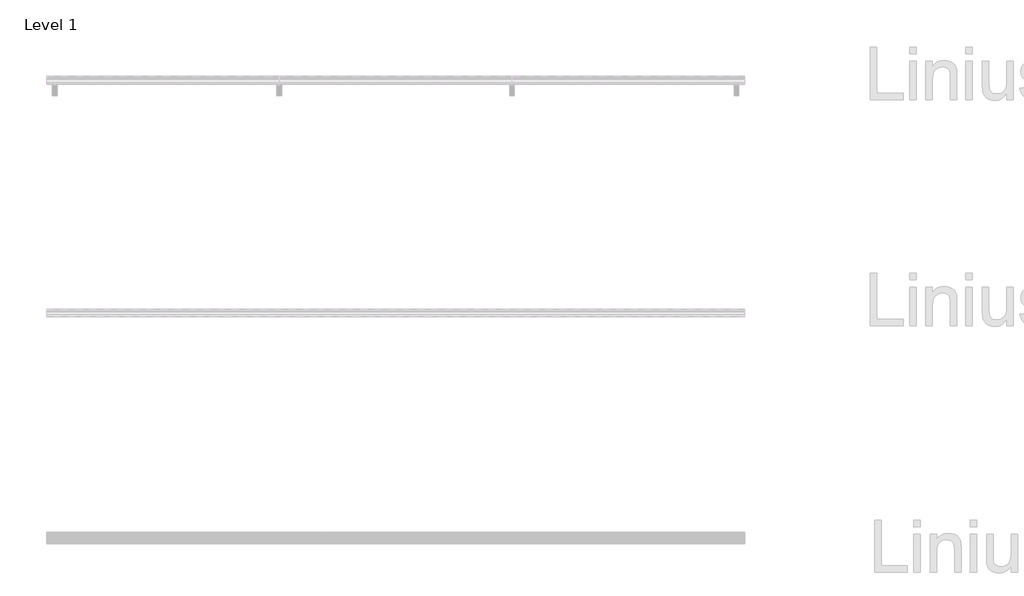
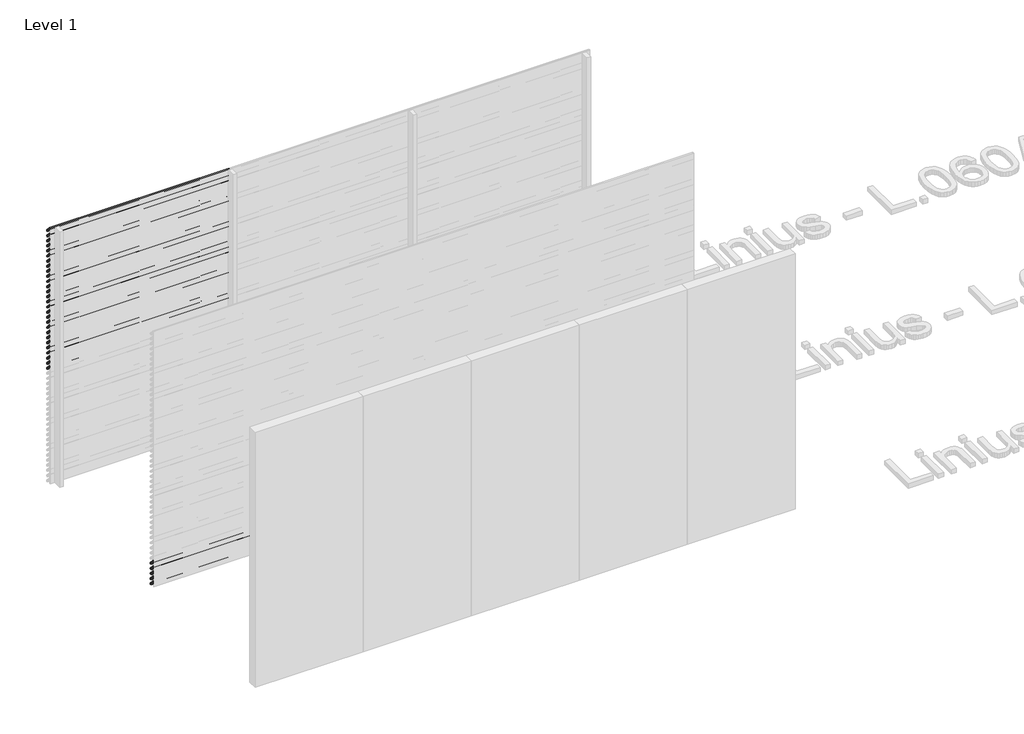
# One storey, part 55 of 153: 33 proxies.
"""IFC4 building model written with IfcOpenShell, lengths in millimetres."""

from ifc_helpers import new_model, si_unit, point, frame, frame_2d, origin, place, context, project, spatial, polyline, circle_curve, trimmed, segment, composite_curve, outline, extrude, element, save

model = new_model("IFC4")

# Units and contexts
model_context = context("Model", 3, world=origin())
ifc_project = project(units=[si_unit("LENGTHUNIT", "METRE", prefix="MILLI")], contexts=[model_context])

# Site, building, storey
site = spatial("IfcSite", under=ifc_project)
building = spatial("IfcBuilding", under=site)
storey = spatial("IfcBuildingStorey", under=building, Name="Level 1", Elevation=0.0)

# Proxies
placement = place(None, origin())
element("IfcBuildingElementProxy", 1, Name="Wall Sweeps", at=placement, inside=storey, context=model_context, shape_type="SweptSolid", body=[
    extrude(outline(composite_curve([segment(polyline([(28985.0540136, 3000.0), (28999.874191, 2998.7034025), (29049.0540136, 2945.0102749), (29049.0540136, 2933.6108187)]), True, "CONTINUOUS"), segment(trimmed(circle_curve(frame_2d((29045.7883652, 2933.897153)), 3.2781774), [point((29049.0540136, 2933.6108187))], [point((29046.4639442, 2930.6893438))], False, "CARTESIAN"), True, "CONTINUOUS"), segment(polyline([(29046.4639442, 2930.6893438), (29034.1895723, 2931.6282758), (28985.0540136, 2985.2730773), (28985.0540136, 3000.0)]), True, "CONTINUOUS")], self_intersect=False), holes=[composite_curve([segment(polyline([(28999.1621773, 2997.2599659), (28986.5540136, 2998.3630372), (28986.5540136, 2985.856213), (29034.8952036, 2933.0786805), (29046.3312542, 2932.2038762)]), True, "CONTINUOUS"), segment(trimmed(circle_curve(frame_2d((29045.7883652, 2933.897153)), 1.7781774), [point((29046.3312542, 2932.2038762))], [point((29047.5540136, 2933.6864389))], True, "CARTESIAN"), True, "CONTINUOUS"), segment(polyline([(29047.5540136, 2933.6864389), (29047.5540136, 2944.4271392), (28999.1621773, 2997.2599659)]), True, "CONTINUOUS")], self_intersect=False)]), frame((44966.6208097, 0.0, 0.0), z_axis=(1.0, 0.0, 0.0), x_axis=(0.0, 1.0, 0.0)), (0.0, 0.0, 1.0), 2000.0000001),
])
element("IfcBuildingElementProxy", 2, Name="Wall Sweeps", at=placement, inside=storey, context=model_context, shape_type="SweptSolid", body=[
    extrude(outline(composite_curve([segment(polyline([(28985.0540136, 2940.0), (28999.874191, 2938.7034025), (29049.0540136, 2885.0102749), (29049.0540136, 2873.6108187)]), True, "CONTINUOUS"), segment(trimmed(circle_curve(frame_2d((29045.7883652, 2873.897153)), 3.2781774), [point((29049.0540136, 2873.6108187))], [point((29046.4639442, 2870.6893438))], False, "CARTESIAN"), True, "CONTINUOUS"), segment(polyline([(29046.4639442, 2870.6893438), (29034.1895723, 2871.6282758), (28985.0540136, 2925.2730773), (28985.0540136, 2940.0)]), True, "CONTINUOUS")], self_intersect=False), holes=[composite_curve([segment(polyline([(28999.1621773, 2937.2599659), (28986.5540136, 2938.3630372), (28986.5540136, 2925.856213), (29034.8952036, 2873.0786805), (29046.3312542, 2872.2038762)]), True, "CONTINUOUS"), segment(trimmed(circle_curve(frame_2d((29045.7883652, 2873.897153)), 1.7781774), [point((29046.3312542, 2872.2038762))], [point((29047.5540136, 2873.6864389))], True, "CARTESIAN"), True, "CONTINUOUS"), segment(polyline([(29047.5540136, 2873.6864389), (29047.5540136, 2884.4271392), (28999.1621773, 2937.2599659)]), True, "CONTINUOUS")], self_intersect=False)]), frame((44966.6208097, 0.0, 0.0), z_axis=(1.0, 0.0, 0.0), x_axis=(0.0, 1.0, 0.0)), (0.0, 0.0, 1.0), 2000.0000001),
])
element("IfcBuildingElementProxy", 3, Name="Wall Sweeps", at=placement, inside=storey, context=model_context, shape_type="SweptSolid", body=[
    extrude(outline(composite_curve([segment(polyline([(28985.0540136, 2880.0), (28999.874191, 2878.7034025), (29049.0540136, 2825.0102749), (29049.0540136, 2813.6108187)]), True, "CONTINUOUS"), segment(trimmed(circle_curve(frame_2d((29045.7883652, 2813.897153)), 3.2781774), [point((29049.0540136, 2813.6108187))], [point((29046.4639442, 2810.6893438))], False, "CARTESIAN"), True, "CONTINUOUS"), segment(polyline([(29046.4639442, 2810.6893438), (29034.1895723, 2811.6282758), (28985.0540136, 2865.2730773), (28985.0540136, 2880.0)]), True, "CONTINUOUS")], self_intersect=False), holes=[composite_curve([segment(polyline([(28999.1621773, 2877.2599659), (28986.5540136, 2878.3630372), (28986.5540136, 2865.856213), (29034.8952036, 2813.0786805), (29046.3312542, 2812.2038762)]), True, "CONTINUOUS"), segment(trimmed(circle_curve(frame_2d((29045.7883652, 2813.897153)), 1.7781774), [point((29046.3312542, 2812.2038762))], [point((29047.5540136, 2813.6864389))], True, "CARTESIAN"), True, "CONTINUOUS"), segment(polyline([(29047.5540136, 2813.6864389), (29047.5540136, 2824.4271392), (28999.1621773, 2877.2599659)]), True, "CONTINUOUS")], self_intersect=False)]), frame((44966.6208097, 0.0, 0.0), z_axis=(1.0, 0.0, 0.0), x_axis=(0.0, 1.0, 0.0)), (0.0, 0.0, 1.0), 2000.0000001),
])
element("IfcBuildingElementProxy", 4, Name="Wall Sweeps", at=placement, inside=storey, context=model_context, shape_type="SweptSolid", body=[
    extrude(outline(composite_curve([segment(polyline([(28985.0540136, 2820.0), (28999.874191, 2818.7034025), (29049.0540136, 2765.0102749), (29049.0540136, 2753.6108187)]), True, "CONTINUOUS"), segment(trimmed(circle_curve(frame_2d((29045.7883652, 2753.897153)), 3.2781774), [point((29049.0540136, 2753.6108187))], [point((29046.4639442, 2750.6893438))], False, "CARTESIAN"), True, "CONTINUOUS"), segment(polyline([(29046.4639442, 2750.6893438), (29034.1895723, 2751.6282758), (28985.0540136, 2805.2730773), (28985.0540136, 2820.0)]), True, "CONTINUOUS")], self_intersect=False), holes=[composite_curve([segment(polyline([(28999.1621773, 2817.2599659), (28986.5540136, 2818.3630372), (28986.5540136, 2805.856213), (29034.8952036, 2753.0786805), (29046.3312542, 2752.2038762)]), True, "CONTINUOUS"), segment(trimmed(circle_curve(frame_2d((29045.7883652, 2753.897153)), 1.7781774), [point((29046.3312542, 2752.2038762))], [point((29047.5540136, 2753.6864389))], True, "CARTESIAN"), True, "CONTINUOUS"), segment(polyline([(29047.5540136, 2753.6864389), (29047.5540136, 2764.4271392), (28999.1621773, 2817.2599659)]), True, "CONTINUOUS")], self_intersect=False)]), frame((44966.6208097, 0.0, 0.0), z_axis=(1.0, 0.0, 0.0), x_axis=(0.0, 1.0, 0.0)), (0.0, 0.0, 1.0), 2000.0000001),
])
element("IfcBuildingElementProxy", 5, Name="Wall Sweeps", at=placement, inside=storey, context=model_context, shape_type="SweptSolid", body=[
    extrude(outline(composite_curve([segment(polyline([(28985.0540136, 2760.0), (28999.874191, 2758.7034025), (29049.0540136, 2705.0102749), (29049.0540136, 2693.6108187)]), True, "CONTINUOUS"), segment(trimmed(circle_curve(frame_2d((29045.7883652, 2693.897153)), 3.2781774), [point((29049.0540136, 2693.6108187))], [point((29046.4639442, 2690.6893438))], False, "CARTESIAN"), True, "CONTINUOUS"), segment(polyline([(29046.4639442, 2690.6893438), (29034.1895723, 2691.6282758), (28985.0540136, 2745.2730773), (28985.0540136, 2760.0)]), True, "CONTINUOUS")], self_intersect=False), holes=[composite_curve([segment(polyline([(28999.1621773, 2757.2599659), (28986.5540136, 2758.3630372), (28986.5540136, 2745.856213), (29034.8952036, 2693.0786805), (29046.3312542, 2692.2038762)]), True, "CONTINUOUS"), segment(trimmed(circle_curve(frame_2d((29045.7883652, 2693.897153)), 1.7781774), [point((29046.3312542, 2692.2038762))], [point((29047.5540136, 2693.6864389))], True, "CARTESIAN"), True, "CONTINUOUS"), segment(polyline([(29047.5540136, 2693.6864389), (29047.5540136, 2704.4271392), (28999.1621773, 2757.2599659)]), True, "CONTINUOUS")], self_intersect=False)]), frame((44966.6208097, 0.0, 0.0), z_axis=(1.0, 0.0, 0.0), x_axis=(0.0, 1.0, 0.0)), (0.0, 0.0, 1.0), 2000.0000001),
])
element("IfcBuildingElementProxy", 6, Name="Wall Sweeps", at=placement, inside=storey, context=model_context, shape_type="SweptSolid", body=[
    extrude(outline(composite_curve([segment(polyline([(28985.0540136, 2700.0), (28999.874191, 2698.7034025), (29049.0540136, 2645.0102749), (29049.0540136, 2633.6108187)]), True, "CONTINUOUS"), segment(trimmed(circle_curve(frame_2d((29045.7883652, 2633.897153)), 3.2781774), [point((29049.0540136, 2633.6108187))], [point((29046.4639442, 2630.6893438))], False, "CARTESIAN"), True, "CONTINUOUS"), segment(polyline([(29046.4639442, 2630.6893438), (29034.1895723, 2631.6282758), (28985.0540136, 2685.2730773), (28985.0540136, 2700.0)]), True, "CONTINUOUS")], self_intersect=False), holes=[composite_curve([segment(polyline([(28999.1621773, 2697.2599659), (28986.5540136, 2698.3630372), (28986.5540136, 2685.856213), (29034.8952036, 2633.0786805), (29046.3312542, 2632.2038762)]), True, "CONTINUOUS"), segment(trimmed(circle_curve(frame_2d((29045.7883652, 2633.897153)), 1.7781774), [point((29046.3312542, 2632.2038762))], [point((29047.5540136, 2633.6864389))], True, "CARTESIAN"), True, "CONTINUOUS"), segment(polyline([(29047.5540136, 2633.6864389), (29047.5540136, 2644.4271392), (28999.1621773, 2697.2599659)]), True, "CONTINUOUS")], self_intersect=False)]), frame((44966.6208097, 0.0, 0.0), z_axis=(1.0, 0.0, 0.0), x_axis=(0.0, 1.0, 0.0)), (0.0, 0.0, 1.0), 2000.0000001),
])
element("IfcBuildingElementProxy", 7, Name="Wall Sweeps", at=placement, inside=storey, context=model_context, shape_type="SweptSolid", body=[
    extrude(outline(composite_curve([segment(polyline([(28985.0540136, 2640.0), (28999.874191, 2638.7034025), (29049.0540136, 2585.0102749), (29049.0540136, 2573.6108187)]), True, "CONTINUOUS"), segment(trimmed(circle_curve(frame_2d((29045.7883652, 2573.897153)), 3.2781774), [point((29049.0540136, 2573.6108187))], [point((29046.4639442, 2570.6893438))], False, "CARTESIAN"), True, "CONTINUOUS"), segment(polyline([(29046.4639442, 2570.6893438), (29034.1895723, 2571.6282758), (28985.0540136, 2625.2730773), (28985.0540136, 2640.0)]), True, "CONTINUOUS")], self_intersect=False), holes=[composite_curve([segment(polyline([(28999.1621773, 2637.2599659), (28986.5540136, 2638.3630372), (28986.5540136, 2625.856213), (29034.8952036, 2573.0786805), (29046.3312542, 2572.2038762)]), True, "CONTINUOUS"), segment(trimmed(circle_curve(frame_2d((29045.7883652, 2573.897153)), 1.7781774), [point((29046.3312542, 2572.2038762))], [point((29047.5540136, 2573.6864389))], True, "CARTESIAN"), True, "CONTINUOUS"), segment(polyline([(29047.5540136, 2573.6864389), (29047.5540136, 2584.4271392), (28999.1621773, 2637.2599659)]), True, "CONTINUOUS")], self_intersect=False)]), frame((44966.6208097, 0.0, 0.0), z_axis=(1.0, 0.0, 0.0), x_axis=(0.0, 1.0, 0.0)), (0.0, 0.0, 1.0), 2000.0000001),
])
element("IfcBuildingElementProxy", 8, Name="Wall Sweeps", at=placement, inside=storey, context=model_context, shape_type="SweptSolid", body=[
    extrude(outline(composite_curve([segment(polyline([(28985.0540136, 2580.0), (28999.874191, 2578.7034025), (29049.0540136, 2525.0102749), (29049.0540136, 2513.6108187)]), True, "CONTINUOUS"), segment(trimmed(circle_curve(frame_2d((29045.7883652, 2513.897153)), 3.2781774), [point((29049.0540136, 2513.6108187))], [point((29046.4639442, 2510.6893438))], False, "CARTESIAN"), True, "CONTINUOUS"), segment(polyline([(29046.4639442, 2510.6893438), (29034.1895723, 2511.6282758), (28985.0540136, 2565.2730773), (28985.0540136, 2580.0)]), True, "CONTINUOUS")], self_intersect=False), holes=[composite_curve([segment(polyline([(28999.1621773, 2577.2599659), (28986.5540136, 2578.3630372), (28986.5540136, 2565.856213), (29034.8952036, 2513.0786805), (29046.3312542, 2512.2038762)]), True, "CONTINUOUS"), segment(trimmed(circle_curve(frame_2d((29045.7883652, 2513.897153)), 1.7781774), [point((29046.3312542, 2512.2038762))], [point((29047.5540136, 2513.6864389))], True, "CARTESIAN"), True, "CONTINUOUS"), segment(polyline([(29047.5540136, 2513.6864389), (29047.5540136, 2524.4271392), (28999.1621773, 2577.2599659)]), True, "CONTINUOUS")], self_intersect=False)]), frame((44966.6208097, 0.0, 0.0), z_axis=(1.0, 0.0, 0.0), x_axis=(0.0, 1.0, 0.0)), (0.0, 0.0, 1.0), 2000.0000001),
])
element("IfcBuildingElementProxy", 9, Name="Wall Sweeps", at=placement, inside=storey, context=model_context, shape_type="SweptSolid", body=[
    extrude(outline(composite_curve([segment(polyline([(28985.0540136, 2520.0), (28999.874191, 2518.7034025), (29049.0540136, 2465.0102749), (29049.0540136, 2453.6108187)]), True, "CONTINUOUS"), segment(trimmed(circle_curve(frame_2d((29045.7883652, 2453.897153)), 3.2781774), [point((29049.0540136, 2453.6108187))], [point((29046.4639442, 2450.6893438))], False, "CARTESIAN"), True, "CONTINUOUS"), segment(polyline([(29046.4639442, 2450.6893438), (29034.1895723, 2451.6282758), (28985.0540136, 2505.2730773), (28985.0540136, 2520.0)]), True, "CONTINUOUS")], self_intersect=False), holes=[composite_curve([segment(polyline([(28999.1621773, 2517.2599659), (28986.5540136, 2518.3630372), (28986.5540136, 2505.856213), (29034.8952036, 2453.0786805), (29046.3312542, 2452.2038762)]), True, "CONTINUOUS"), segment(trimmed(circle_curve(frame_2d((29045.7883652, 2453.897153)), 1.7781774), [point((29046.3312542, 2452.2038762))], [point((29047.5540136, 2453.6864389))], True, "CARTESIAN"), True, "CONTINUOUS"), segment(polyline([(29047.5540136, 2453.6864389), (29047.5540136, 2464.4271392), (28999.1621773, 2517.2599659)]), True, "CONTINUOUS")], self_intersect=False)]), frame((44966.6208097, 0.0, 0.0), z_axis=(1.0, 0.0, 0.0), x_axis=(0.0, 1.0, 0.0)), (0.0, 0.0, 1.0), 2000.0000001),
])
element("IfcBuildingElementProxy", 10, Name="Wall Sweeps", at=placement, inside=storey, context=model_context, shape_type="SweptSolid", body=[
    extrude(outline(composite_curve([segment(polyline([(28985.0540136, 2460.0), (28999.874191, 2458.7034025), (29049.0540136, 2405.0102749), (29049.0540136, 2393.6108187)]), True, "CONTINUOUS"), segment(trimmed(circle_curve(frame_2d((29045.7883652, 2393.897153)), 3.2781774), [point((29049.0540136, 2393.6108187))], [point((29046.4639442, 2390.6893438))], False, "CARTESIAN"), True, "CONTINUOUS"), segment(polyline([(29046.4639442, 2390.6893438), (29034.1895723, 2391.6282758), (28985.0540136, 2445.2730773), (28985.0540136, 2460.0)]), True, "CONTINUOUS")], self_intersect=False), holes=[composite_curve([segment(polyline([(28999.1621773, 2457.2599659), (28986.5540136, 2458.3630372), (28986.5540136, 2445.856213), (29034.8952036, 2393.0786805), (29046.3312542, 2392.2038762)]), True, "CONTINUOUS"), segment(trimmed(circle_curve(frame_2d((29045.7883652, 2393.897153)), 1.7781774), [point((29046.3312542, 2392.2038762))], [point((29047.5540136, 2393.6864389))], True, "CARTESIAN"), True, "CONTINUOUS"), segment(polyline([(29047.5540136, 2393.6864389), (29047.5540136, 2404.4271392), (28999.1621773, 2457.2599659)]), True, "CONTINUOUS")], self_intersect=False)]), frame((44966.6208097, 0.0, 0.0), z_axis=(1.0, 0.0, 0.0), x_axis=(0.0, 1.0, 0.0)), (0.0, 0.0, 1.0), 2000.0000001),
])
element("IfcBuildingElementProxy", 11, Name="Wall Sweeps", at=placement, inside=storey, context=model_context, shape_type="SweptSolid", body=[
    extrude(outline(composite_curve([segment(polyline([(28985.0540136, 2400.0), (28999.874191, 2398.7034025), (29049.0540136, 2345.0102749), (29049.0540136, 2333.6108187)]), True, "CONTINUOUS"), segment(trimmed(circle_curve(frame_2d((29045.7883652, 2333.897153)), 3.2781774), [point((29049.0540136, 2333.6108187))], [point((29046.4639442, 2330.6893438))], False, "CARTESIAN"), True, "CONTINUOUS"), segment(polyline([(29046.4639442, 2330.6893438), (29034.1895723, 2331.6282758), (28985.0540136, 2385.2730773), (28985.0540136, 2400.0)]), True, "CONTINUOUS")], self_intersect=False), holes=[composite_curve([segment(polyline([(28999.1621773, 2397.2599659), (28986.5540136, 2398.3630372), (28986.5540136, 2385.856213), (29034.8952036, 2333.0786805), (29046.3312542, 2332.2038762)]), True, "CONTINUOUS"), segment(trimmed(circle_curve(frame_2d((29045.7883652, 2333.897153)), 1.7781774), [point((29046.3312542, 2332.2038762))], [point((29047.5540136, 2333.6864389))], True, "CARTESIAN"), True, "CONTINUOUS"), segment(polyline([(29047.5540136, 2333.6864389), (29047.5540136, 2344.4271392), (28999.1621773, 2397.2599659)]), True, "CONTINUOUS")], self_intersect=False)]), frame((44966.6208097, 0.0, 0.0), z_axis=(1.0, 0.0, 0.0), x_axis=(0.0, 1.0, 0.0)), (0.0, 0.0, 1.0), 2000.0000001),
])
element("IfcBuildingElementProxy", 12, Name="Wall Sweeps", at=placement, inside=storey, context=model_context, shape_type="SweptSolid", body=[
    extrude(outline(composite_curve([segment(polyline([(28985.0540136, 2340.0), (28999.874191, 2338.7034025), (29049.0540136, 2285.0102749), (29049.0540136, 2273.6108187)]), True, "CONTINUOUS"), segment(trimmed(circle_curve(frame_2d((29045.7883652, 2273.897153)), 3.2781774), [point((29049.0540136, 2273.6108187))], [point((29046.4639442, 2270.6893438))], False, "CARTESIAN"), True, "CONTINUOUS"), segment(polyline([(29046.4639442, 2270.6893438), (29034.1895723, 2271.6282758), (28985.0540136, 2325.2730773), (28985.0540136, 2340.0)]), True, "CONTINUOUS")], self_intersect=False), holes=[composite_curve([segment(polyline([(28999.1621773, 2337.2599659), (28986.5540136, 2338.3630372), (28986.5540136, 2325.856213), (29034.8952036, 2273.0786805), (29046.3312542, 2272.2038762)]), True, "CONTINUOUS"), segment(trimmed(circle_curve(frame_2d((29045.7883652, 2273.897153)), 1.7781774), [point((29046.3312542, 2272.2038762))], [point((29047.5540136, 2273.6864389))], True, "CARTESIAN"), True, "CONTINUOUS"), segment(polyline([(29047.5540136, 2273.6864389), (29047.5540136, 2284.4271392), (28999.1621773, 2337.2599659)]), True, "CONTINUOUS")], self_intersect=False)]), frame((44966.6208097, 0.0, 0.0), z_axis=(1.0, 0.0, 0.0), x_axis=(0.0, 1.0, 0.0)), (0.0, 0.0, 1.0), 2000.0000001),
])
element("IfcBuildingElementProxy", 13, Name="Wall Sweeps", at=placement, inside=storey, context=model_context, shape_type="SweptSolid", body=[
    extrude(outline(composite_curve([segment(polyline([(28985.0540136, 2280.0), (28999.874191, 2278.7034025), (29049.0540136, 2225.0102749), (29049.0540136, 2213.6108187)]), True, "CONTINUOUS"), segment(trimmed(circle_curve(frame_2d((29045.7883652, 2213.897153)), 3.2781774), [point((29049.0540136, 2213.6108187))], [point((29046.4639442, 2210.6893438))], False, "CARTESIAN"), True, "CONTINUOUS"), segment(polyline([(29046.4639442, 2210.6893438), (29034.1895723, 2211.6282758), (28985.0540136, 2265.2730773), (28985.0540136, 2280.0)]), True, "CONTINUOUS")], self_intersect=False), holes=[composite_curve([segment(polyline([(28999.1621773, 2277.2599659), (28986.5540136, 2278.3630372), (28986.5540136, 2265.856213), (29034.8952036, 2213.0786805), (29046.3312542, 2212.2038762)]), True, "CONTINUOUS"), segment(trimmed(circle_curve(frame_2d((29045.7883652, 2213.897153)), 1.7781774), [point((29046.3312542, 2212.2038762))], [point((29047.5540136, 2213.6864389))], True, "CARTESIAN"), True, "CONTINUOUS"), segment(polyline([(29047.5540136, 2213.6864389), (29047.5540136, 2224.4271392), (28999.1621773, 2277.2599659)]), True, "CONTINUOUS")], self_intersect=False)]), frame((44966.6208097, 0.0, 0.0), z_axis=(1.0, 0.0, 0.0), x_axis=(0.0, 1.0, 0.0)), (0.0, 0.0, 1.0), 2000.0000001),
])
element("IfcBuildingElementProxy", 14, Name="Wall Sweeps", at=placement, inside=storey, context=model_context, shape_type="SweptSolid", body=[
    extrude(outline(composite_curve([segment(polyline([(28985.0540136, 2220.0), (28999.874191, 2218.7034025), (29049.0540136, 2165.0102749), (29049.0540136, 2153.6108187)]), True, "CONTINUOUS"), segment(trimmed(circle_curve(frame_2d((29045.7883652, 2153.897153)), 3.2781774), [point((29049.0540136, 2153.6108187))], [point((29046.4639442, 2150.6893438))], False, "CARTESIAN"), True, "CONTINUOUS"), segment(polyline([(29046.4639442, 2150.6893438), (29034.1895723, 2151.6282758), (28985.0540136, 2205.2730773), (28985.0540136, 2220.0)]), True, "CONTINUOUS")], self_intersect=False), holes=[composite_curve([segment(polyline([(28999.1621773, 2217.2599659), (28986.5540136, 2218.3630372), (28986.5540136, 2205.856213), (29034.8952036, 2153.0786805), (29046.3312542, 2152.2038762)]), True, "CONTINUOUS"), segment(trimmed(circle_curve(frame_2d((29045.7883652, 2153.897153)), 1.7781774), [point((29046.3312542, 2152.2038762))], [point((29047.5540136, 2153.6864389))], True, "CARTESIAN"), True, "CONTINUOUS"), segment(polyline([(29047.5540136, 2153.6864389), (29047.5540136, 2164.4271392), (28999.1621773, 2217.2599659)]), True, "CONTINUOUS")], self_intersect=False)]), frame((44966.6208097, 0.0, 0.0), z_axis=(1.0, 0.0, 0.0), x_axis=(0.0, 1.0, 0.0)), (0.0, 0.0, 1.0), 2000.0000001),
])
element("IfcBuildingElementProxy", 15, Name="Wall Sweeps", at=placement, inside=storey, context=model_context, shape_type="SweptSolid", body=[
    extrude(outline(composite_curve([segment(polyline([(28985.0540136, 2160.0), (28999.874191, 2158.7034025), (29049.0540136, 2105.0102749), (29049.0540136, 2093.6108187)]), True, "CONTINUOUS"), segment(trimmed(circle_curve(frame_2d((29045.7883652, 2093.897153)), 3.2781774), [point((29049.0540136, 2093.6108187))], [point((29046.4639442, 2090.6893438))], False, "CARTESIAN"), True, "CONTINUOUS"), segment(polyline([(29046.4639442, 2090.6893438), (29034.1895723, 2091.6282758), (28985.0540136, 2145.2730773), (28985.0540136, 2160.0)]), True, "CONTINUOUS")], self_intersect=False), holes=[composite_curve([segment(polyline([(28999.1621773, 2157.2599659), (28986.5540136, 2158.3630372), (28986.5540136, 2145.856213), (29034.8952036, 2093.0786805), (29046.3312542, 2092.2038762)]), True, "CONTINUOUS"), segment(trimmed(circle_curve(frame_2d((29045.7883652, 2093.897153)), 1.7781774), [point((29046.3312542, 2092.2038762))], [point((29047.5540136, 2093.6864389))], True, "CARTESIAN"), True, "CONTINUOUS"), segment(polyline([(29047.5540136, 2093.6864389), (29047.5540136, 2104.4271392), (28999.1621773, 2157.2599659)]), True, "CONTINUOUS")], self_intersect=False)]), frame((44966.6208097, 0.0, 0.0), z_axis=(1.0, 0.0, 0.0), x_axis=(0.0, 1.0, 0.0)), (0.0, 0.0, 1.0), 2000.0000001),
])
element("IfcBuildingElementProxy", 16, Name="Wall Sweeps", at=placement, inside=storey, context=model_context, shape_type="SweptSolid", body=[
    extrude(outline(composite_curve([segment(polyline([(28985.0540136, 2100.0), (28999.874191, 2098.7034025), (29049.0540136, 2045.0102749), (29049.0540136, 2033.6108187)]), True, "CONTINUOUS"), segment(trimmed(circle_curve(frame_2d((29045.7883652, 2033.897153)), 3.2781774), [point((29049.0540136, 2033.6108187))], [point((29046.4639442, 2030.6893438))], False, "CARTESIAN"), True, "CONTINUOUS"), segment(polyline([(29046.4639442, 2030.6893438), (29034.1895723, 2031.6282758), (28985.0540136, 2085.2730773), (28985.0540136, 2100.0)]), True, "CONTINUOUS")], self_intersect=False), holes=[composite_curve([segment(polyline([(28999.1621773, 2097.2599659), (28986.5540136, 2098.3630372), (28986.5540136, 2085.856213), (29034.8952036, 2033.0786805), (29046.3312542, 2032.2038762)]), True, "CONTINUOUS"), segment(trimmed(circle_curve(frame_2d((29045.7883652, 2033.897153)), 1.7781774), [point((29046.3312542, 2032.2038762))], [point((29047.5540136, 2033.6864389))], True, "CARTESIAN"), True, "CONTINUOUS"), segment(polyline([(29047.5540136, 2033.6864389), (29047.5540136, 2044.4271392), (28999.1621773, 2097.2599659)]), True, "CONTINUOUS")], self_intersect=False)]), frame((44966.6208097, 0.0, 0.0), z_axis=(1.0, 0.0, 0.0), x_axis=(0.0, 1.0, 0.0)), (0.0, 0.0, 1.0), 2000.0000001),
])
element("IfcBuildingElementProxy", 17, Name="Wall Sweeps", at=placement, inside=storey, context=model_context, shape_type="SweptSolid", body=[
    extrude(outline(composite_curve([segment(polyline([(28985.0540136, 2040.0), (28999.874191, 2038.7034025), (29049.0540136, 1985.0102749), (29049.0540136, 1973.6108187)]), True, "CONTINUOUS"), segment(trimmed(circle_curve(frame_2d((29045.7883652, 1973.897153)), 3.2781774), [point((29049.0540136, 1973.6108187))], [point((29046.4639442, 1970.6893438))], False, "CARTESIAN"), True, "CONTINUOUS"), segment(polyline([(29046.4639442, 1970.6893438), (29034.1895723, 1971.6282758), (28985.0540136, 2025.2730773), (28985.0540136, 2040.0)]), True, "CONTINUOUS")], self_intersect=False), holes=[composite_curve([segment(polyline([(28999.1621773, 2037.2599659), (28986.5540136, 2038.3630372), (28986.5540136, 2025.856213), (29034.8952036, 1973.0786805), (29046.3312542, 1972.2038762)]), True, "CONTINUOUS"), segment(trimmed(circle_curve(frame_2d((29045.7883652, 1973.897153)), 1.7781774), [point((29046.3312542, 1972.2038762))], [point((29047.5540136, 1973.6864389))], True, "CARTESIAN"), True, "CONTINUOUS"), segment(polyline([(29047.5540136, 1973.6864389), (29047.5540136, 1984.4271392), (28999.1621773, 2037.2599659)]), True, "CONTINUOUS")], self_intersect=False)]), frame((44966.6208097, 0.0, 0.0), z_axis=(1.0, 0.0, 0.0), x_axis=(0.0, 1.0, 0.0)), (0.0, 0.0, 1.0), 2000.0000001),
])
element("IfcBuildingElementProxy", 18, Name="Wall Sweeps", at=placement, inside=storey, context=model_context, shape_type="SweptSolid", body=[
    extrude(outline(composite_curve([segment(polyline([(28985.0540136, 1980.0), (28999.874191, 1978.7034025), (29049.0540136, 1925.0102749), (29049.0540136, 1913.6108187)]), True, "CONTINUOUS"), segment(trimmed(circle_curve(frame_2d((29045.7883652, 1913.897153)), 3.2781774), [point((29049.0540136, 1913.6108187))], [point((29046.4639442, 1910.6893438))], False, "CARTESIAN"), True, "CONTINUOUS"), segment(polyline([(29046.4639442, 1910.6893438), (29034.1895723, 1911.6282758), (28985.0540136, 1965.2730773), (28985.0540136, 1980.0)]), True, "CONTINUOUS")], self_intersect=False), holes=[composite_curve([segment(polyline([(28999.1621773, 1977.2599659), (28986.5540136, 1978.3630372), (28986.5540136, 1965.856213), (29034.8952036, 1913.0786805), (29046.3312542, 1912.2038762)]), True, "CONTINUOUS"), segment(trimmed(circle_curve(frame_2d((29045.7883652, 1913.897153)), 1.7781774), [point((29046.3312542, 1912.2038762))], [point((29047.5540136, 1913.6864389))], True, "CARTESIAN"), True, "CONTINUOUS"), segment(polyline([(29047.5540136, 1913.6864389), (29047.5540136, 1924.4271392), (28999.1621773, 1977.2599659)]), True, "CONTINUOUS")], self_intersect=False)]), frame((44966.6208097, 0.0, 0.0), z_axis=(1.0, 0.0, 0.0), x_axis=(0.0, 1.0, 0.0)), (0.0, 0.0, 1.0), 2000.0000001),
])
element("IfcBuildingElementProxy", 19, Name="Wall Sweeps", at=placement, inside=storey, context=model_context, shape_type="SweptSolid", body=[
    extrude(outline(composite_curve([segment(polyline([(28985.0540136, 1920.0), (28999.874191, 1918.7034025), (29049.0540136, 1865.0102749), (29049.0540136, 1853.6108187)]), True, "CONTINUOUS"), segment(trimmed(circle_curve(frame_2d((29045.7883652, 1853.897153)), 3.2781774), [point((29049.0540136, 1853.6108187))], [point((29046.4639442, 1850.6893438))], False, "CARTESIAN"), True, "CONTINUOUS"), segment(polyline([(29046.4639442, 1850.6893438), (29034.1895723, 1851.6282758), (28985.0540136, 1905.2730773), (28985.0540136, 1920.0)]), True, "CONTINUOUS")], self_intersect=False), holes=[composite_curve([segment(polyline([(28999.1621773, 1917.2599659), (28986.5540136, 1918.3630372), (28986.5540136, 1905.856213), (29034.8952036, 1853.0786805), (29046.3312542, 1852.2038762)]), True, "CONTINUOUS"), segment(trimmed(circle_curve(frame_2d((29045.7883652, 1853.897153)), 1.7781774), [point((29046.3312542, 1852.2038762))], [point((29047.5540136, 1853.6864389))], True, "CARTESIAN"), True, "CONTINUOUS"), segment(polyline([(29047.5540136, 1853.6864389), (29047.5540136, 1864.4271392), (28999.1621773, 1917.2599659)]), True, "CONTINUOUS")], self_intersect=False)]), frame((44966.6208097, 0.0, 0.0), z_axis=(1.0, 0.0, 0.0), x_axis=(0.0, 1.0, 0.0)), (0.0, 0.0, 1.0), 2000.0000001),
])
element("IfcBuildingElementProxy", 20, Name="Wall Sweeps", at=placement, inside=storey, context=model_context, shape_type="SweptSolid", body=[
    extrude(outline(composite_curve([segment(polyline([(28985.0540136, 1860.0), (28999.874191, 1858.7034025), (29049.0540136, 1805.0102749), (29049.0540136, 1793.6108187)]), True, "CONTINUOUS"), segment(trimmed(circle_curve(frame_2d((29045.7883652, 1793.897153)), 3.2781774), [point((29049.0540136, 1793.6108187))], [point((29046.4639442, 1790.6893438))], False, "CARTESIAN"), True, "CONTINUOUS"), segment(polyline([(29046.4639442, 1790.6893438), (29034.1895723, 1791.6282758), (28985.0540136, 1845.2730773), (28985.0540136, 1860.0)]), True, "CONTINUOUS")], self_intersect=False), holes=[composite_curve([segment(polyline([(28999.1621773, 1857.2599659), (28986.5540136, 1858.3630372), (28986.5540136, 1845.856213), (29034.8952036, 1793.0786805), (29046.3312542, 1792.2038762)]), True, "CONTINUOUS"), segment(trimmed(circle_curve(frame_2d((29045.7883652, 1793.897153)), 1.7781774), [point((29046.3312542, 1792.2038762))], [point((29047.5540136, 1793.6864389))], True, "CARTESIAN"), True, "CONTINUOUS"), segment(polyline([(29047.5540136, 1793.6864389), (29047.5540136, 1804.4271392), (28999.1621773, 1857.2599659)]), True, "CONTINUOUS")], self_intersect=False)]), frame((44966.6208097, 0.0, 0.0), z_axis=(1.0, 0.0, 0.0), x_axis=(0.0, 1.0, 0.0)), (0.0, 0.0, 1.0), 2000.0000001),
])
element("IfcBuildingElementProxy", 21, Name="Wall Sweeps", at=placement, inside=storey, context=model_context, shape_type="SweptSolid", body=[
    extrude(outline(composite_curve([segment(polyline([(28985.0540136, 1800.0), (28999.874191, 1798.7034025), (29049.0540136, 1745.0102749), (29049.0540136, 1733.6108187)]), True, "CONTINUOUS"), segment(trimmed(circle_curve(frame_2d((29045.7883652, 1733.897153)), 3.2781774), [point((29049.0540136, 1733.6108187))], [point((29046.4639442, 1730.6893438))], False, "CARTESIAN"), True, "CONTINUOUS"), segment(polyline([(29046.4639442, 1730.6893438), (29034.1895723, 1731.6282758), (28985.0540136, 1785.2730773), (28985.0540136, 1800.0)]), True, "CONTINUOUS")], self_intersect=False), holes=[composite_curve([segment(polyline([(28999.1621773, 1797.2599659), (28986.5540136, 1798.3630372), (28986.5540136, 1785.856213), (29034.8952036, 1733.0786805), (29046.3312542, 1732.2038762)]), True, "CONTINUOUS"), segment(trimmed(circle_curve(frame_2d((29045.7883652, 1733.897153)), 1.7781774), [point((29046.3312542, 1732.2038762))], [point((29047.5540136, 1733.6864389))], True, "CARTESIAN"), True, "CONTINUOUS"), segment(polyline([(29047.5540136, 1733.6864389), (29047.5540136, 1744.4271392), (28999.1621773, 1797.2599659)]), True, "CONTINUOUS")], self_intersect=False)]), frame((44966.6208097, 0.0, 0.0), z_axis=(1.0, 0.0, 0.0), x_axis=(0.0, 1.0, 0.0)), (0.0, 0.0, 1.0), 2000.0000001),
])
element("IfcBuildingElementProxy", 22, Name="Wall Sweeps", at=placement, inside=storey, context=model_context, shape_type="SweptSolid", body=[
    extrude(outline(composite_curve([segment(polyline([(28985.0540136, 1740.0), (28999.874191, 1738.7034025), (29049.0540136, 1685.0102749), (29049.0540136, 1673.6108187)]), True, "CONTINUOUS"), segment(trimmed(circle_curve(frame_2d((29045.7883652, 1673.897153)), 3.2781774), [point((29049.0540136, 1673.6108187))], [point((29046.4639442, 1670.6893438))], False, "CARTESIAN"), True, "CONTINUOUS"), segment(polyline([(29046.4639442, 1670.6893438), (29034.1895723, 1671.6282758), (28985.0540136, 1725.2730773), (28985.0540136, 1740.0)]), True, "CONTINUOUS")], self_intersect=False), holes=[composite_curve([segment(polyline([(28999.1621773, 1737.2599659), (28986.5540136, 1738.3630372), (28986.5540136, 1725.856213), (29034.8952036, 1673.0786805), (29046.3312542, 1672.2038762)]), True, "CONTINUOUS"), segment(trimmed(circle_curve(frame_2d((29045.7883652, 1673.897153)), 1.7781774), [point((29046.3312542, 1672.2038762))], [point((29047.5540136, 1673.6864389))], True, "CARTESIAN"), True, "CONTINUOUS"), segment(polyline([(29047.5540136, 1673.6864389), (29047.5540136, 1684.4271392), (28999.1621773, 1737.2599659)]), True, "CONTINUOUS")], self_intersect=False)]), frame((44966.6208097, 0.0, 0.0), z_axis=(1.0, 0.0, 0.0), x_axis=(0.0, 1.0, 0.0)), (0.0, 0.0, 1.0), 2000.0000001),
])
element("IfcBuildingElementProxy", 23, Name="Wall Sweeps", at=placement, inside=storey, context=model_context, shape_type="SweptSolid", body=[
    extrude(outline(composite_curve([segment(polyline([(28985.0540136, 1680.0), (28999.874191, 1678.7034025), (29049.0540136, 1625.0102749), (29049.0540136, 1613.6108187)]), True, "CONTINUOUS"), segment(trimmed(circle_curve(frame_2d((29045.7883652, 1613.897153)), 3.2781774), [point((29049.0540136, 1613.6108187))], [point((29046.4639442, 1610.6893438))], False, "CARTESIAN"), True, "CONTINUOUS"), segment(polyline([(29046.4639442, 1610.6893438), (29034.1895723, 1611.6282758), (28985.0540136, 1665.2730773), (28985.0540136, 1680.0)]), True, "CONTINUOUS")], self_intersect=False), holes=[composite_curve([segment(polyline([(28999.1621773, 1677.2599659), (28986.5540136, 1678.3630372), (28986.5540136, 1665.856213), (29034.8952036, 1613.0786805), (29046.3312542, 1612.2038762)]), True, "CONTINUOUS"), segment(trimmed(circle_curve(frame_2d((29045.7883652, 1613.897153)), 1.7781774), [point((29046.3312542, 1612.2038762))], [point((29047.5540136, 1613.6864389))], True, "CARTESIAN"), True, "CONTINUOUS"), segment(polyline([(29047.5540136, 1613.6864389), (29047.5540136, 1624.4271392), (28999.1621773, 1677.2599659)]), True, "CONTINUOUS")], self_intersect=False)]), frame((44966.6208097, 0.0, 0.0), z_axis=(1.0, 0.0, 0.0), x_axis=(0.0, 1.0, 0.0)), (0.0, 0.0, 1.0), 2000.0000001),
])
element("IfcBuildingElementProxy", 24, Name="Wall Sweeps", at=placement, inside=storey, context=model_context, shape_type="SweptSolid", body=[
    extrude(outline(composite_curve([segment(polyline([(28985.0540136, 1620.0), (28999.874191, 1618.7034025), (29049.0540136, 1565.0102749), (29049.0540136, 1553.6108187)]), True, "CONTINUOUS"), segment(trimmed(circle_curve(frame_2d((29045.7883652, 1553.897153)), 3.2781774), [point((29049.0540136, 1553.6108187))], [point((29046.4639442, 1550.6893438))], False, "CARTESIAN"), True, "CONTINUOUS"), segment(polyline([(29046.4639442, 1550.6893438), (29034.1895723, 1551.6282758), (28985.0540136, 1605.2730773), (28985.0540136, 1620.0)]), True, "CONTINUOUS")], self_intersect=False), holes=[composite_curve([segment(polyline([(28999.1621773, 1617.2599659), (28986.5540136, 1618.3630372), (28986.5540136, 1605.856213), (29034.8952036, 1553.0786805), (29046.3312542, 1552.2038762)]), True, "CONTINUOUS"), segment(trimmed(circle_curve(frame_2d((29045.7883652, 1553.897153)), 1.7781774), [point((29046.3312542, 1552.2038762))], [point((29047.5540136, 1553.6864389))], True, "CARTESIAN"), True, "CONTINUOUS"), segment(polyline([(29047.5540136, 1553.6864389), (29047.5540136, 1564.4271392), (28999.1621773, 1617.2599659)]), True, "CONTINUOUS")], self_intersect=False)]), frame((44966.6208097, 0.0, 0.0), z_axis=(1.0, 0.0, 0.0), x_axis=(0.0, 1.0, 0.0)), (0.0, 0.0, 1.0), 2000.0000001),
])
element("IfcBuildingElementProxy", 25, Name="Wall Sweeps", at=placement, inside=storey, context=model_context, shape_type="SweptSolid", body=[
    extrude(outline(composite_curve([segment(polyline([(28985.0540136, 1560.0), (28999.874191, 1558.7034025), (29049.0540136, 1505.0102749), (29049.0540136, 1493.6108187)]), True, "CONTINUOUS"), segment(trimmed(circle_curve(frame_2d((29045.7883652, 1493.897153)), 3.2781774), [point((29049.0540136, 1493.6108187))], [point((29046.4639442, 1490.6893438))], False, "CARTESIAN"), True, "CONTINUOUS"), segment(polyline([(29046.4639442, 1490.6893438), (29034.1895723, 1491.6282758), (28985.0540136, 1545.2730773), (28985.0540136, 1560.0)]), True, "CONTINUOUS")], self_intersect=False), holes=[composite_curve([segment(polyline([(28999.1621773, 1557.2599659), (28986.5540136, 1558.3630372), (28986.5540136, 1545.856213), (29034.8952036, 1493.0786805), (29046.3312542, 1492.2038762)]), True, "CONTINUOUS"), segment(trimmed(circle_curve(frame_2d((29045.7883652, 1493.897153)), 1.7781774), [point((29046.3312542, 1492.2038762))], [point((29047.5540136, 1493.6864389))], True, "CARTESIAN"), True, "CONTINUOUS"), segment(polyline([(29047.5540136, 1493.6864389), (29047.5540136, 1504.4271392), (28999.1621773, 1557.2599659)]), True, "CONTINUOUS")], self_intersect=False)]), frame((44966.6208097, 0.0, 0.0), z_axis=(1.0, 0.0, 0.0), x_axis=(0.0, 1.0, 0.0)), (0.0, 0.0, 1.0), 2000.0000001),
])
element("IfcBuildingElementProxy", 26, Name="Wall Sweeps", at=placement, inside=storey, context=model_context, shape_type="SweptSolid", body=[
    extrude(outline(composite_curve([segment(polyline([(28985.0540136, 1500.0), (28999.874191, 1498.7034025), (29049.0540136, 1445.0102749), (29049.0540136, 1433.6108187)]), True, "CONTINUOUS"), segment(trimmed(circle_curve(frame_2d((29045.7883652, 1433.897153)), 3.2781774), [point((29049.0540136, 1433.6108187))], [point((29046.4639442, 1430.6893438))], False, "CARTESIAN"), True, "CONTINUOUS"), segment(polyline([(29046.4639442, 1430.6893438), (29034.1895723, 1431.6282758), (28985.0540136, 1485.2730773), (28985.0540136, 1500.0)]), True, "CONTINUOUS")], self_intersect=False), holes=[composite_curve([segment(polyline([(28999.1621773, 1497.2599659), (28986.5540136, 1498.3630372), (28986.5540136, 1485.856213), (29034.8952036, 1433.0786805), (29046.3312542, 1432.2038762)]), True, "CONTINUOUS"), segment(trimmed(circle_curve(frame_2d((29045.7883652, 1433.897153)), 1.7781774), [point((29046.3312542, 1432.2038762))], [point((29047.5540136, 1433.6864389))], True, "CARTESIAN"), True, "CONTINUOUS"), segment(polyline([(29047.5540136, 1433.6864389), (29047.5540136, 1444.4271392), (28999.1621773, 1497.2599659)]), True, "CONTINUOUS")], self_intersect=False)]), frame((44966.6208097, 0.0, 0.0), z_axis=(1.0, 0.0, 0.0), x_axis=(0.0, 1.0, 0.0)), (0.0, 0.0, 1.0), 2000.0000001),
])
element("IfcBuildingElementProxy", 27, Name="Wall Sweeps", at=placement, inside=storey, context=model_context, shape_type="SweptSolid", body=[
    extrude(outline(composite_curve([segment(polyline([(28985.0540136, 1440.0), (28999.874191, 1438.7034025), (29049.0540136, 1385.0102749), (29049.0540136, 1373.6108187)]), True, "CONTINUOUS"), segment(trimmed(circle_curve(frame_2d((29045.7883652, 1373.897153)), 3.2781774), [point((29049.0540136, 1373.6108187))], [point((29046.4639442, 1370.6893438))], False, "CARTESIAN"), True, "CONTINUOUS"), segment(polyline([(29046.4639442, 1370.6893438), (29034.1895723, 1371.6282758), (28985.0540136, 1425.2730773), (28985.0540136, 1440.0)]), True, "CONTINUOUS")], self_intersect=False), holes=[composite_curve([segment(polyline([(28999.1621773, 1437.2599659), (28986.5540136, 1438.3630372), (28986.5540136, 1425.856213), (29034.8952036, 1373.0786805), (29046.3312542, 1372.2038762)]), True, "CONTINUOUS"), segment(trimmed(circle_curve(frame_2d((29045.7883652, 1373.897153)), 1.7781774), [point((29046.3312542, 1372.2038762))], [point((29047.5540136, 1373.6864389))], True, "CARTESIAN"), True, "CONTINUOUS"), segment(polyline([(29047.5540136, 1373.6864389), (29047.5540136, 1384.4271392), (28999.1621773, 1437.2599659)]), True, "CONTINUOUS")], self_intersect=False)]), frame((44966.6208097, 0.0, 0.0), z_axis=(1.0, 0.0, 0.0), x_axis=(0.0, 1.0, 0.0)), (0.0, 0.0, 1.0), 2000.0000001),
])
element("IfcBuildingElementProxy", 28, Name="Wall Sweeps", at=placement, inside=storey, context=model_context, shape_type="SweptSolid", body=[
    extrude(outline(composite_curve([segment(polyline([(28985.0540136, 1380.0), (28999.874191, 1378.7034025), (29049.0540136, 1325.0102749), (29049.0540136, 1313.6108187)]), True, "CONTINUOUS"), segment(trimmed(circle_curve(frame_2d((29045.7883652, 1313.897153)), 3.2781774), [point((29049.0540136, 1313.6108187))], [point((29046.4639442, 1310.6893438))], False, "CARTESIAN"), True, "CONTINUOUS"), segment(polyline([(29046.4639442, 1310.6893438), (29034.1895723, 1311.6282758), (28985.0540136, 1365.2730773), (28985.0540136, 1380.0)]), True, "CONTINUOUS")], self_intersect=False), holes=[composite_curve([segment(polyline([(28999.1621773, 1377.2599659), (28986.5540136, 1378.3630372), (28986.5540136, 1365.856213), (29034.8952036, 1313.0786805), (29046.3312542, 1312.2038762)]), True, "CONTINUOUS"), segment(trimmed(circle_curve(frame_2d((29045.7883652, 1313.897153)), 1.7781774), [point((29046.3312542, 1312.2038762))], [point((29047.5540136, 1313.6864389))], True, "CARTESIAN"), True, "CONTINUOUS"), segment(polyline([(29047.5540136, 1313.6864389), (29047.5540136, 1324.4271392), (28999.1621773, 1377.2599659)]), True, "CONTINUOUS")], self_intersect=False)]), frame((44966.6208097, 0.0, 0.0), z_axis=(1.0, 0.0, 0.0), x_axis=(0.0, 1.0, 0.0)), (0.0, 0.0, 1.0), 2000.0000001),
])
element("IfcBuildingElementProxy", 29, Name="Wall Sweeps", at=placement, inside=storey, context=model_context, shape_type="SweptSolid", body=[
    extrude(outline(composite_curve([segment(polyline([(26985.0540136, 300.0), (26999.874191, 298.7034025), (27049.0540136, 245.0102749), (27049.0540136, 233.6108187)]), True, "CONTINUOUS"), segment(trimmed(circle_curve(frame_2d((27045.7883652, 233.897153)), 3.2781774), [point((27049.0540136, 233.6108187))], [point((27046.4639442, 230.6893438))], False, "CARTESIAN"), True, "CONTINUOUS"), segment(polyline([(27046.4639442, 230.6893438), (27034.1895723, 231.6282758), (26985.0540136, 285.2730773), (26985.0540136, 300.0)]), True, "CONTINUOUS")], self_intersect=False), holes=[composite_curve([segment(polyline([(26999.1621773, 297.2599659), (26986.5540136, 298.3630372), (26986.5540136, 285.856213), (27034.8952036, 233.0786805), (27046.3312542, 232.2038762)]), True, "CONTINUOUS"), segment(trimmed(circle_curve(frame_2d((27045.7883652, 233.897153)), 1.7781774), [point((27046.3312542, 232.2038762))], [point((27047.5540136, 233.6864389))], True, "CARTESIAN"), True, "CONTINUOUS"), segment(polyline([(27047.5540136, 233.6864389), (27047.5540136, 244.4271392), (26999.1621773, 297.2599659)]), True, "CONTINUOUS")], self_intersect=False)]), frame((44966.6208097, 0.0, 0.0), z_axis=(1.0, 0.0, 0.0), x_axis=(0.0, 1.0, 0.0)), (0.0, 0.0, 1.0), 6000.0),
])
element("IfcBuildingElementProxy", 30, Name="Wall Sweeps", at=placement, inside=storey, context=model_context, shape_type="SweptSolid", body=[
    extrude(outline(composite_curve([segment(polyline([(26985.0540136, 240.0), (26999.874191, 238.7034025), (27049.0540136, 185.0102749), (27049.0540136, 173.6108187)]), True, "CONTINUOUS"), segment(trimmed(circle_curve(frame_2d((27045.7883652, 173.897153)), 3.2781774), [point((27049.0540136, 173.6108187))], [point((27046.4639442, 170.6893438))], False, "CARTESIAN"), True, "CONTINUOUS"), segment(polyline([(27046.4639442, 170.6893438), (27034.1895723, 171.6282758), (26985.0540136, 225.2730773), (26985.0540136, 240.0)]), True, "CONTINUOUS")], self_intersect=False), holes=[composite_curve([segment(polyline([(26999.1621773, 237.2599659), (26986.5540136, 238.3630372), (26986.5540136, 225.856213), (27034.8952036, 173.0786805), (27046.3312542, 172.2038762)]), True, "CONTINUOUS"), segment(trimmed(circle_curve(frame_2d((27045.7883652, 173.897153)), 1.7781774), [point((27046.3312542, 172.2038762))], [point((27047.5540136, 173.6864389))], True, "CARTESIAN"), True, "CONTINUOUS"), segment(polyline([(27047.5540136, 173.6864389), (27047.5540136, 184.4271392), (26999.1621773, 237.2599659)]), True, "CONTINUOUS")], self_intersect=False)]), frame((44966.6208097, 0.0, 0.0), z_axis=(1.0, 0.0, 0.0), x_axis=(0.0, 1.0, 0.0)), (0.0, 0.0, 1.0), 6000.0),
])
element("IfcBuildingElementProxy", 31, Name="Wall Sweeps", at=placement, inside=storey, context=model_context, shape_type="SweptSolid", body=[
    extrude(outline(composite_curve([segment(polyline([(26985.0540136, 180.0), (26999.874191, 178.7034025), (27049.0540136, 125.0102749), (27049.0540136, 113.6108187)]), True, "CONTINUOUS"), segment(trimmed(circle_curve(frame_2d((27045.7883652, 113.897153)), 3.2781774), [point((27049.0540136, 113.6108187))], [point((27046.4639442, 110.6893438))], False, "CARTESIAN"), True, "CONTINUOUS"), segment(polyline([(27046.4639442, 110.6893438), (27034.1895723, 111.6282758), (26985.0540136, 165.2730773), (26985.0540136, 180.0)]), True, "CONTINUOUS")], self_intersect=False), holes=[composite_curve([segment(polyline([(26999.1621773, 177.2599659), (26986.5540136, 178.3630372), (26986.5540136, 165.856213), (27034.8952036, 113.0786805), (27046.3312542, 112.2038762)]), True, "CONTINUOUS"), segment(trimmed(circle_curve(frame_2d((27045.7883652, 113.897153)), 1.7781774), [point((27046.3312542, 112.2038762))], [point((27047.5540136, 113.6864389))], True, "CARTESIAN"), True, "CONTINUOUS"), segment(polyline([(27047.5540136, 113.6864389), (27047.5540136, 124.4271392), (26999.1621773, 177.2599659)]), True, "CONTINUOUS")], self_intersect=False)]), frame((44966.6208097, 0.0, 0.0), z_axis=(1.0, 0.0, 0.0), x_axis=(0.0, 1.0, 0.0)), (0.0, 0.0, 1.0), 6000.0),
])
element("IfcBuildingElementProxy", 32, Name="Wall Sweeps", at=placement, inside=storey, context=model_context, shape_type="SweptSolid", body=[
    extrude(outline(composite_curve([segment(polyline([(26985.0540136, 120.0), (26999.874191, 118.7034025), (27049.0540136, 65.0102749), (27049.0540136, 53.6108187)]), True, "CONTINUOUS"), segment(trimmed(circle_curve(frame_2d((27045.7883652, 53.897153)), 3.2781774), [point((27049.0540136, 53.6108187))], [point((27046.4639442, 50.6893438))], False, "CARTESIAN"), True, "CONTINUOUS"), segment(polyline([(27046.4639442, 50.6893438), (27034.1895723, 51.6282758), (26985.0540136, 105.2730773), (26985.0540136, 120.0)]), True, "CONTINUOUS")], self_intersect=False), holes=[composite_curve([segment(polyline([(26999.1621773, 117.2599659), (26986.5540136, 118.3630372), (26986.5540136, 105.856213), (27034.8952036, 53.0786805), (27046.3312542, 52.2038762)]), True, "CONTINUOUS"), segment(trimmed(circle_curve(frame_2d((27045.7883652, 53.897153)), 1.7781774), [point((27046.3312542, 52.2038762))], [point((27047.5540136, 53.6864389))], True, "CARTESIAN"), True, "CONTINUOUS"), segment(polyline([(27047.5540136, 53.6864389), (27047.5540136, 64.4271392), (26999.1621773, 117.2599659)]), True, "CONTINUOUS")], self_intersect=False)]), frame((44966.6208097, 0.0, 0.0), z_axis=(1.0, 0.0, 0.0), x_axis=(0.0, 1.0, 0.0)), (0.0, 0.0, 1.0), 6000.0),
])
element("IfcBuildingElementProxy", 33, Name="Wall Sweeps", at=placement, inside=storey, context=model_context, shape_type="SweptSolid", body=[
    extrude(outline(composite_curve([segment(polyline([(26985.0540136, 60.0), (26999.874191, 58.7034025), (27049.0540136, 5.0102749), (27049.0540136, -6.3891813)]), True, "CONTINUOUS"), segment(trimmed(circle_curve(frame_2d((27045.7883652, -6.102847)), 3.2781774), [point((27049.0540136, -6.3891813))], [point((27046.4639442, -9.3106562))], False, "CARTESIAN"), True, "CONTINUOUS"), segment(polyline([(27046.4639442, -9.3106562), (27034.1895723, -8.3717242), (26985.0540136, 45.2730773), (26985.0540136, 60.0)]), True, "CONTINUOUS")], self_intersect=False), holes=[composite_curve([segment(polyline([(26999.1621773, 57.2599659), (26986.5540136, 58.3630372), (26986.5540136, 45.856213), (27034.8952036, -6.9213195), (27046.3312542, -7.7961238)]), True, "CONTINUOUS"), segment(trimmed(circle_curve(frame_2d((27045.7883652, -6.102847)), 1.7781774), [point((27046.3312542, -7.7961238))], [point((27047.5540136, -6.3135611))], True, "CARTESIAN"), True, "CONTINUOUS"), segment(polyline([(27047.5540136, -6.3135611), (27047.5540136, 4.4271392), (26999.1621773, 57.2599659)]), True, "CONTINUOUS")], self_intersect=False)]), frame((44966.6208097, 0.0, 0.0), z_axis=(1.0, 0.0, 0.0), x_axis=(0.0, 1.0, 0.0)), (0.0, 0.0, 1.0), 6000.0),
])

save(model, "model.ifc")
